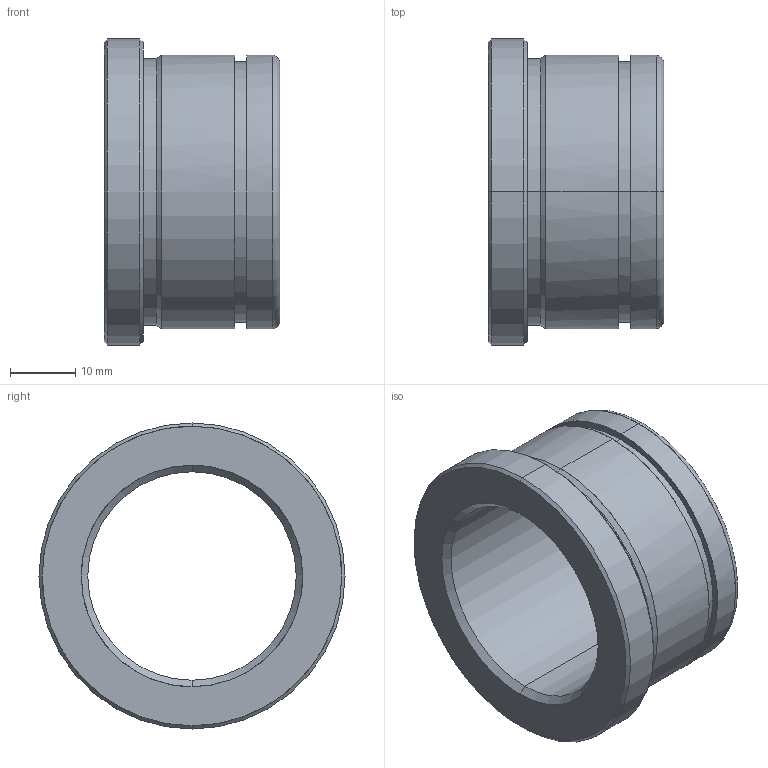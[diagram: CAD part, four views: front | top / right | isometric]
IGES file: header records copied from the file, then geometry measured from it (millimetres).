
Start section: START RECORD GO HERE.
Global section: file name: 553-32X27.igs; native system: DASSAULT SYSTEMES CATIA V5 R20 - www.3ds.com; preprocessor: CATIA Version 5 Release 20 ; author: Utente; organization: NB04-ASUS; date: 20210526.204824; units: millimetre
Bounding box: 27 x 47 x 47 mm (x, y, z)
Surface area: 8235.1 mm2 (no closed solid volume)
Topology: 0 solids, 0 shells, 29 faces, 184 edges, 184 vertices
Faces by surface type: revolution 24, plane 5
